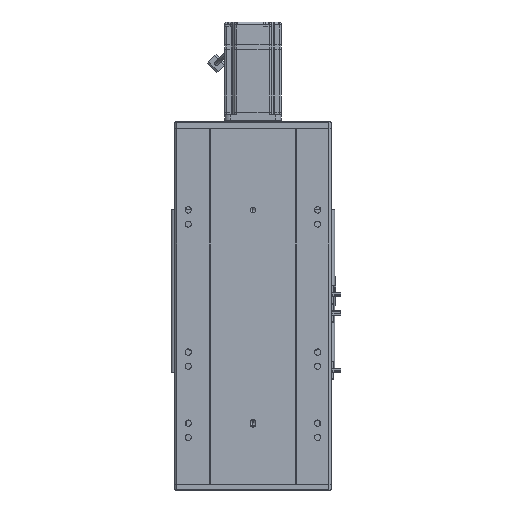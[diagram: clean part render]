
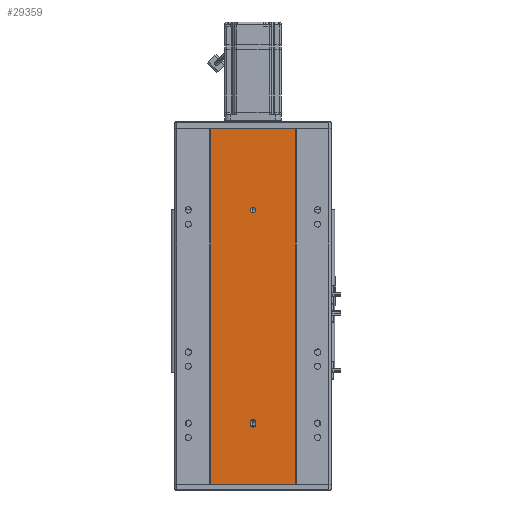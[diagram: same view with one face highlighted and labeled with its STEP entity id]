
A CAD part, front view. The second image highlights one B-rep face of the part: STEP entity #29359.
In plain terms, the highlighted planar face has unit normal (0, -1, 0).
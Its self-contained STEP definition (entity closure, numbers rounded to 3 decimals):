
#249 = AXIS2_PLACEMENT_3D ( 'NONE', #49541, #12718, #28092 ) ;
#427 = CARTESIAN_POINT ( 'NONE',  ( -60., 0., 0. ) ) ;
#614 = DIRECTION ( 'NONE',  ( 0., -1., 0. ) ) ;
#1020 = EDGE_CURVE ( 'NONE', #39328, #66898, #35221, .T. ) ;
#1271 = DIRECTION ( 'NONE',  ( 0., 0., 1. ) ) ;
#1836 = CIRCLE ( 'NONE', #25417, 4. ) ;
#2604 = CARTESIAN_POINT ( 'NONE',  ( -60., 0., 500. ) ) ;
#3528 = DIRECTION ( 'NONE',  ( 1., 0., 0. ) ) ;
#3725 = FACE_BOUND ( 'NONE', #57753, .T. ) ;
#4612 = CIRCLE ( 'NONE', #32776, 4. ) ;
#4666 = ORIENTED_EDGE ( 'NONE', *, *, #1020, .F. ) ;
#5358 = DIRECTION ( 'NONE',  ( 1., 0., 0. ) ) ;
#5392 = VECTOR ( 'NONE', #1271, 1000. ) ;
#5652 = VECTOR ( 'NONE', #3528, 1000. ) ;
#5985 = DIRECTION ( 'NONE',  ( 0., 0., -1. ) ) ;
#7685 = EDGE_LOOP ( 'NONE', ( #63181, #4666, #21262, #51150 ) ) ;
#7723 = CARTESIAN_POINT ( 'NONE',  ( -60., 0., 500. ) ) ;
#8423 = CARTESIAN_POINT ( 'NONE',  ( 0., 0., 382. ) ) ;
#8454 = DIRECTION ( 'NONE',  ( 0., -1., 0. ) ) ;
#9464 = AXIS2_PLACEMENT_3D ( 'NONE', #29970, #34502, #66078 ) ;
#9752 = EDGE_CURVE ( 'NONE', #28720, #62271, #36300, .T. ) ;
#10935 = EDGE_CURVE ( 'NONE', #26385, #41896, #27283, .T. ) ;
#10938 = CARTESIAN_POINT ( 'NONE',  ( 0., 0., 386. ) ) ;
#10962 = FACE_BOUND ( 'NONE', #38630, .T. ) ;
#11614 = ORIENTED_EDGE ( 'NONE', *, *, #27808, .F. ) ;
#12699 = VECTOR ( 'NONE', #29578, 1000. ) ;
#12718 = DIRECTION ( 'NONE',  ( 0., -1., 0. ) ) ;
#13884 = CARTESIAN_POINT ( 'NONE',  ( -60., 0., 500. ) ) ;
#15518 = EDGE_CURVE ( 'NONE', #26385, #39328, #66258, .T. ) ;
#15901 = CARTESIAN_POINT ( 'NONE',  ( 0., 0., 84.5 ) ) ;
#16595 = CARTESIAN_POINT ( 'NONE',  ( 60., 0., 500. ) ) ;
#17329 = EDGE_CURVE ( 'NONE', #33456, #40491, #4612, .T. ) ;
#17397 = EDGE_CURVE ( 'NONE', #49050, #28720, #58724, .T. ) ;
#18255 = FACE_OUTER_BOUND ( 'NONE', #7685, .T. ) ;
#18350 = DIRECTION ( 'NONE',  ( 0., 0., 1. ) ) ;
#19169 = CIRCLE ( 'NONE', #249, 4. ) ;
#19552 = EDGE_CURVE ( 'NONE', #65276, #52509, #40781, .T. ) ;
#19560 = CARTESIAN_POINT ( 'NONE',  ( -4., 0., 84.5 ) ) ;
#21262 = ORIENTED_EDGE ( 'NONE', *, *, #15518, .F. ) ;
#24441 = CARTESIAN_POINT ( 'NONE',  ( -4., 0., 87.5 ) ) ;
#24687 = EDGE_CURVE ( 'NONE', #40491, #33456, #19169, .T. ) ;
#24862 = CARTESIAN_POINT ( 'NONE',  ( 0., 0., 390. ) ) ;
#25230 = EDGE_CURVE ( 'NONE', #41896, #66898, #38517, .T. ) ;
#25392 = ORIENTED_EDGE ( 'NONE', *, *, #24687, .F. ) ;
#25417 = AXIS2_PLACEMENT_3D ( 'NONE', #15901, #25640, #31536 ) ;
#25640 = DIRECTION ( 'NONE',  ( 0., -1., 0. ) ) ;
#26333 = DIRECTION ( 'NONE',  ( 0., 0., -1. ) ) ;
#26385 = VERTEX_POINT ( 'NONE', #2604 ) ;
#27193 = AXIS2_PLACEMENT_3D ( 'NONE', #34039, #8454, #54986 ) ;
#27283 = LINE ( 'NONE', #65692, #12699 ) ;
#27795 = CARTESIAN_POINT ( 'NONE',  ( 60., 0., 500. ) ) ;
#27808 = EDGE_CURVE ( 'NONE', #52509, #49050, #1836, .T. ) ;
#28092 = DIRECTION ( 'NONE',  ( 0., 0., -1. ) ) ;
#28720 = VERTEX_POINT ( 'NONE', #31341 ) ;
#29359 = ADVANCED_FACE ( 'NONE', ( #3725, #10962, #18255 ), #64894, .F. ) ;
#29578 = DIRECTION ( 'NONE',  ( 0., 0., -1. ) ) ;
#29970 = CARTESIAN_POINT ( 'NONE',  ( 0., 0., 87.5 ) ) ;
#31010 = ORIENTED_EDGE ( 'NONE', *, *, #17329, .F. ) ;
#31341 = CARTESIAN_POINT ( 'NONE',  ( 4., 0., 87.5 ) ) ;
#31536 = DIRECTION ( 'NONE',  ( 0., 0., -1. ) ) ;
#32776 = AXIS2_PLACEMENT_3D ( 'NONE', #10938, #614, #5985 ) ;
#33456 = VERTEX_POINT ( 'NONE', #24862 ) ;
#34039 = CARTESIAN_POINT ( 'NONE',  ( 0., 0., 84.5 ) ) ;
#34377 = LINE ( 'NONE', #36411, #43195 ) ;
#34502 = DIRECTION ( 'NONE',  ( 0., -1., 0. ) ) ;
#35221 = LINE ( 'NONE', #16595, #51342 ) ;
#36055 = CARTESIAN_POINT ( 'NONE',  ( 60., 0., 0. ) ) ;
#36300 = CIRCLE ( 'NONE', #9464, 4. ) ;
#36411 = CARTESIAN_POINT ( 'NONE',  ( -4., 0., 84.5 ) ) ;
#38517 = LINE ( 'NONE', #427, #42489 ) ;
#38630 = EDGE_LOOP ( 'NONE', ( #40328, #11614, #41458, #46812, #63905 ) ) ;
#39328 = VERTEX_POINT ( 'NONE', #27795 ) ;
#40328 = ORIENTED_EDGE ( 'NONE', *, *, #17397, .F. ) ;
#40491 = VERTEX_POINT ( 'NONE', #8423 ) ;
#40781 = CIRCLE ( 'NONE', #27193, 4. ) ;
#41458 = ORIENTED_EDGE ( 'NONE', *, *, #19552, .F. ) ;
#41896 = VERTEX_POINT ( 'NONE', #56917 ) ;
#41920 = AXIS2_PLACEMENT_3D ( 'NONE', #7723, #43870, #18350 ) ;
#42489 = VECTOR ( 'NONE', #5358, 1000. ) ;
#43195 = VECTOR ( 'NONE', #51533, 1000. ) ;
#43870 = DIRECTION ( 'NONE',  ( 0., 1., 0. ) ) ;
#46705 = EDGE_CURVE ( 'NONE', #62271, #65276, #34377, .T. ) ;
#46812 = ORIENTED_EDGE ( 'NONE', *, *, #46705, .F. ) ;
#47332 = CARTESIAN_POINT ( 'NONE',  ( 4., 0., 84.5 ) ) ;
#49050 = VERTEX_POINT ( 'NONE', #60676 ) ;
#49541 = CARTESIAN_POINT ( 'NONE',  ( 0., 0., 386. ) ) ;
#51150 = ORIENTED_EDGE ( 'NONE', *, *, #10935, .T. ) ;
#51342 = VECTOR ( 'NONE', #26333, 1000. ) ;
#51533 = DIRECTION ( 'NONE',  ( 0., 0., -1. ) ) ;
#52509 = VERTEX_POINT ( 'NONE', #55510 ) ;
#54986 = DIRECTION ( 'NONE',  ( 0., 0., -1. ) ) ;
#55510 = CARTESIAN_POINT ( 'NONE',  ( 0., 0., 80.5 ) ) ;
#56917 = CARTESIAN_POINT ( 'NONE',  ( -60., 0., 0. ) ) ;
#57753 = EDGE_LOOP ( 'NONE', ( #25392, #31010 ) ) ;
#58724 = LINE ( 'NONE', #47332, #5392 ) ;
#60676 = CARTESIAN_POINT ( 'NONE',  ( 4., 0., 84.5 ) ) ;
#62271 = VERTEX_POINT ( 'NONE', #24441 ) ;
#63181 = ORIENTED_EDGE ( 'NONE', *, *, #25230, .T. ) ;
#63905 = ORIENTED_EDGE ( 'NONE', *, *, #9752, .F. ) ;
#64894 = PLANE ( 'NONE',  #41920 ) ;
#65276 = VERTEX_POINT ( 'NONE', #19560 ) ;
#65692 = CARTESIAN_POINT ( 'NONE',  ( -60., 0., 500. ) ) ;
#66078 = DIRECTION ( 'NONE',  ( 0., 0., -1. ) ) ;
#66258 = LINE ( 'NONE', #13884, #5652 ) ;
#66898 = VERTEX_POINT ( 'NONE', #36055 ) ;
